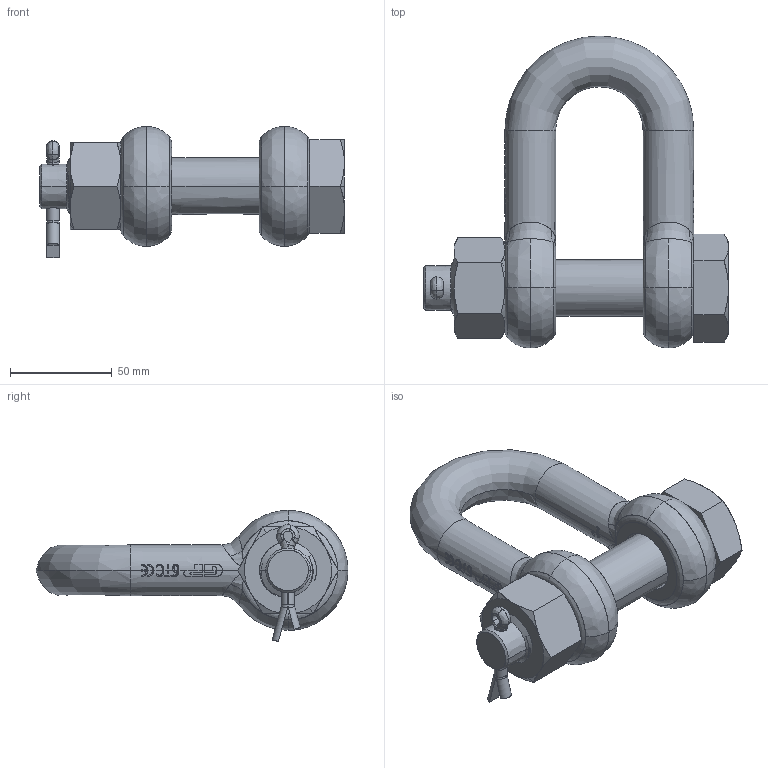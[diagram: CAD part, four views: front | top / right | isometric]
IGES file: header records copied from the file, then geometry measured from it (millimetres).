
Start section: START RECORD GO HERE.
Global section: file name: 8,5.igs; native system: Solidworks 2009      A Version 5 Release 17 ; preprocessor: Solidworks                 ; author: v.b.; organization: P4; date: 20090807.084148; units: millimetre
Bounding box: 150 x 153.5 x 64.55 mm (x, y, z)
Surface area: 64152 mm2 (no closed solid volume)
Topology: 0 solids, 0 shells, 683 faces, 4223 edges, 4215 vertices
Faces by surface type: bspline 299, plane 231, revolution 153
